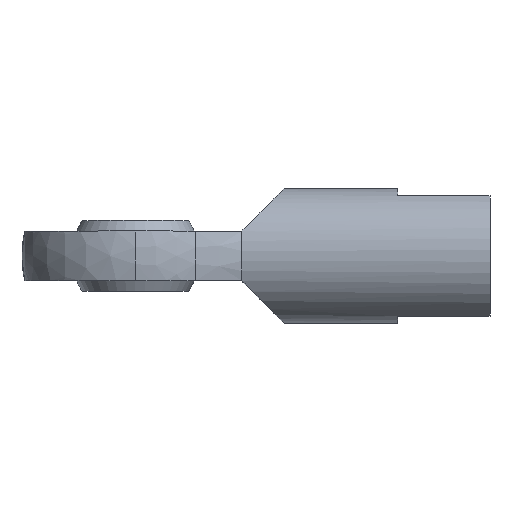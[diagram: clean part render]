
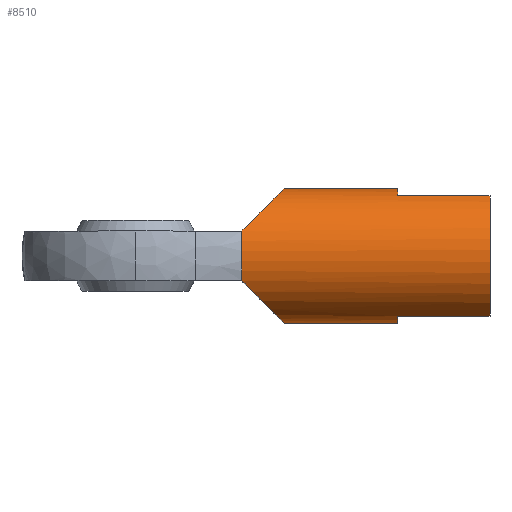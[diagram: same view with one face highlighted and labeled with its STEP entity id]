
A CAD part, top view. The second image highlights one B-rep face of the part: STEP entity #8510.
In plain terms, the highlighted cylindrical face has radius 9.5 mm (diameter 19 mm), a partial arc.
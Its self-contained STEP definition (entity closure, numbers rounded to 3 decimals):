
#60=CARTESIAN_POINT('',(50.,0.,0.));
#70=DIRECTION('',(-1.,0.,0.));
#80=DIRECTION('',(0.,-1.,0.));
#90=AXIS2_PLACEMENT_3D('',#60,#70,#80);
#100=CIRCLE('',#90,9.5);
#210=CARTESIAN_POINT('',(50.,-8.5,4.243));
#220=VERTEX_POINT('',#210);
#250=CARTESIAN_POINT('',(50.,8.5,4.243));
#260=VERTEX_POINT('',#250);
#270=EDGE_CURVE('',#220,#260,#100,.T.);
#1120=CARTESIAN_POINT('',(15.,-3.5,8.832));
#1130=VERTEX_POINT('',#1120);
#1160=CARTESIAN_POINT('',(11.5,0.,0.));
#1170=DIRECTION('',(0.707,0.707,0.));
#1180=DIRECTION('',(0.707,-0.707,0.));
#1190=AXIS2_PLACEMENT_3D('',#1160,#1170,#1180);
#1200=ELLIPSE('',#1190,13.435,9.5);
#1210=CARTESIAN_POINT('',(21.,-9.5,0.));
#1220=VERTEX_POINT('',#1210);
#1230=EDGE_CURVE('',#1130,#1220,#1200,.T.);
#1300=CARTESIAN_POINT('',(32.5,0.,0.));
#1310=DIRECTION('',(-1.,0.,0.));
#1320=DIRECTION('',(0.,1.,0.));
#1330=AXIS2_PLACEMENT_3D('',#1300,#1310,#1320);
#1340=CYLINDRICAL_SURFACE('',#1330,9.5);
#1350=CARTESIAN_POINT('',(32.5,9.5,0.));
#1360=DIRECTION('',(-1.,0.,0.));
#1370=VECTOR('',#1360,1.);
#1380=LINE('',#1350,#1370);
#1390=CARTESIAN_POINT('',(37.,9.5,0.));
#1400=VERTEX_POINT('',#1390);
#1410=CARTESIAN_POINT('',(21.,9.5,0.));
#1420=VERTEX_POINT('',#1410);
#1430=EDGE_CURVE('',#1400,#1420,#1380,.T.);
#1450=CARTESIAN_POINT('',(11.5,0.,0.));
#1460=DIRECTION('',(0.707,-0.707,0.));
#1470=DIRECTION('',(-0.707,-0.707,0.));
#1480=AXIS2_PLACEMENT_3D('',#1450,#1460,#1470);
#1490=ELLIPSE('',#1480,13.435,9.5);
#1540=CARTESIAN_POINT('',(15.,0.,0.));
#1550=DIRECTION('',(-1.,0.,0.));
#1560=DIRECTION('',(0.,-1.,0.));
#1570=AXIS2_PLACEMENT_3D('',#1540,#1550,#1560);
#1580=CIRCLE('',#1570,9.5);
#1620=CARTESIAN_POINT('',(32.5,-9.5,0.))
;
#1630=DIRECTION('',(-1.,0.,0.));
#1640=VECTOR('',#1630,1.);
#1650=LINE('',#1620,#1640);
#1660=CARTESIAN_POINT('',(37.,-9.5,0.));
#1670=VERTEX_POINT('',#1660);
#1680=EDGE_CURVE('',#1670,#1220,#1650,.T.);
#1700=CARTESIAN_POINT('',(37.,0.,0.));
#1710=DIRECTION('',(-1.,0.,0.));
#1720=DIRECTION('',(0.,1.,0.));
#1730=AXIS2_PLACEMENT_3D('',#1700,#1710,#1720);
#1740=CIRCLE('',#1730,9.5);
#1940=CARTESIAN_POINT('',(37.,0.,0.));
#1950=DIRECTION('',(-1.,0.,0.));
#1960=DIRECTION('',(0.,1.,0.));
#1970=AXIS2_PLACEMENT_3D('',#1940,#1950,#1960);
#1980=CIRCLE('',#1970,9.5);
#2090=CARTESIAN_POINT('',(15.,3.5,
8.832));
#2100=VERTEX_POINT('',#2090);
#2110=EDGE_CURVE('',#1130,#2100,#1580,.T.);
#4150=EDGE_CURVE('',#1420,#2100,#1490,.T.);
#5690=CARTESIAN_POINT('',(37.,-8.5,4.243));
#5700=VERTEX_POINT('',#5690);
#5740=EDGE_CURVE('',#1670,#5700,#1740,.T.);
#5850=CARTESIAN_POINT('',(32.5,-8.5,4.243));
#5860=DIRECTION('',(-1.,0.,0.));
#5870=VECTOR('',#5860,1.);
#5880=LINE('',#5850,#5870);
#5890=EDGE_CURVE('',#220,#5700,#5880,.T.);
#6050=CARTESIAN_POINT('',(37.,8.5,4.243));
#6060=VERTEX_POINT('',#6050);
#6090=EDGE_CURVE('',#6060,#1400,#1980,.T.);
#6210=CARTESIAN_POINT('',(32.5,8.5,4.243));
#6220=DIRECTION('',(-1.,0.,0.));
#6230=VECTOR('',#6220,1.);
#6240=LINE('',#6210,#6230);
#6250=EDGE_CURVE('',#260,#6060,#6240,.T.);
#8390=ORIENTED_EDGE('',*,*,#1430,.T.);
#8400=ORIENTED_EDGE('',*,*,#6090,.T.);
#8410=ORIENTED_EDGE('',*,*,#6250,.T.);
#8420=ORIENTED_EDGE('',*,*,#270,.T.);
#8430=ORIENTED_EDGE('',*,*,#5890,.F.);
#8440=ORIENTED_EDGE('',*,*,#5740,.T.);
#8450=ORIENTED_EDGE('',*,*,#1680,.F.);
#8460=ORIENTED_EDGE('',*,*,#1230,.T.);
#8470=ORIENTED_EDGE('',*,*,#2110,.F.);
#8480=ORIENTED_EDGE('',*,*,#4150,.T.);
#8490=EDGE_LOOP('',(#8480,#8470,#8460,#8450,#8440,#8430,#8420,#8410,
#8400,#8390));
#8500=FACE_OUTER_BOUND('',#8490,.T.);
#8510=ADVANCED_FACE('',(#8500),#1340,.T.);
